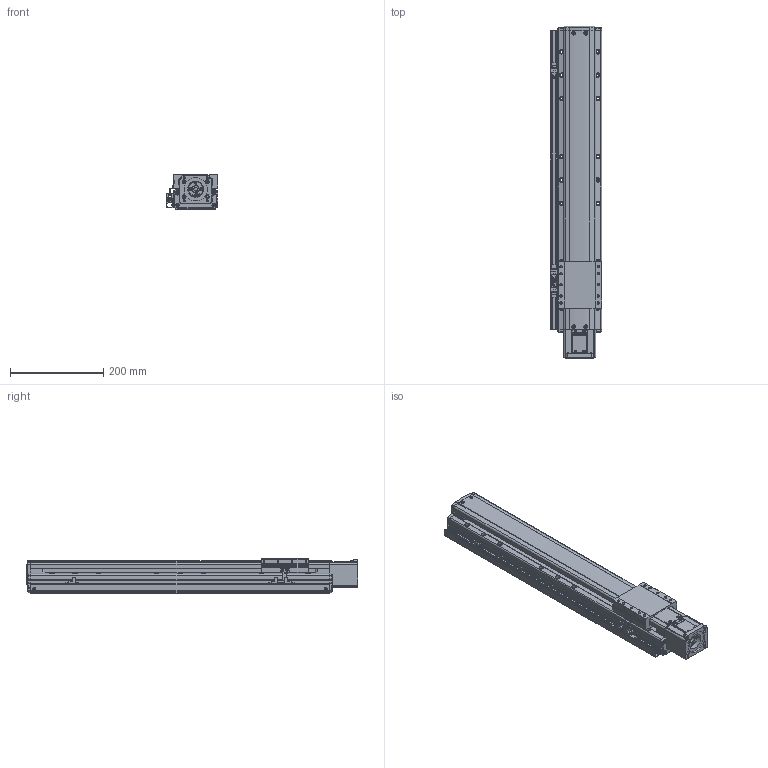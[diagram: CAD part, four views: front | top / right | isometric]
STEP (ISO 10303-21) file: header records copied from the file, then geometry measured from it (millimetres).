
FILE_DESCRIPTION(('STEP AP214'),'1');
FILE_NAME('Z:/Web/3D/PSA95/STP/PSA95-450 (3D)/PSA95ㅁㅁ-450S+3SL.stp','2014-07-03T00:24:47',(' '),(' '),'Spatial InterOp 3D',' ',' ');
FILE_SCHEMA(('automotive_design'));
Length unit declared in the file: millimetre
Products named in the file (53): BASE; RRCV; 스크루 : Round - M4.0 x 10.0; 너트 : Square - M10.0 x 220.7419; RR1500; FRCV-090; 스크루 : Round - M4.0 x 6.0; SLBL-PA90; SSFX-SAN65; CPLCV-SAN65; 스크루 : Round - M3.0 x 6.0; MTHZ-PA70/90-S60A-3; 스크루 : Socket - M4.0 x 20.0; NONE; EE-SX674; SBK-SX674-352; M3.0 x 6.0; SRL-16x17-380L; SGD-PA95; 스크루 : Round - M3.0 x 8.0
Bounding box: 111 x 712.5 x 74 mm (x, y, z)
Volume: 3797874.3 mm3; surface area: 510571.1 mm2
Topology: 53 solids, 87 shells, 3544 faces, 9100 edges, 5776 vertices
Faces by surface type: plane 1811, cylinder 1070, cone 407, torus 158, sphere 66, bspline 32
Entity records: 139682 total; most frequent: CARTESIAN_POINT 22546, DIRECTION 19036, ORIENTED_EDGE 17912, EDGE_CURVE 8956, AXIS2_PLACEMENT_3D 6748, VERTEX_POINT 5776, LINE 5540, VECTOR 5540
